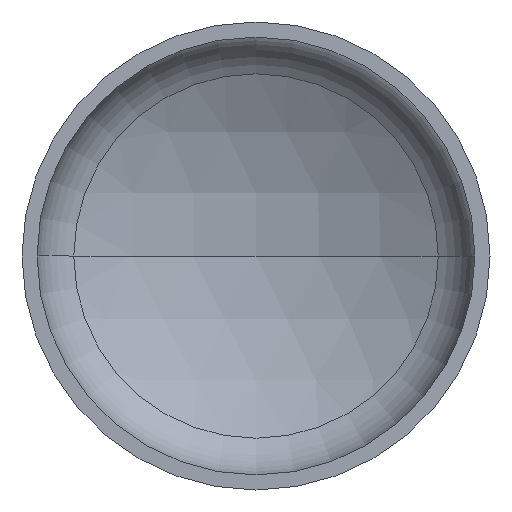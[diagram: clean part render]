
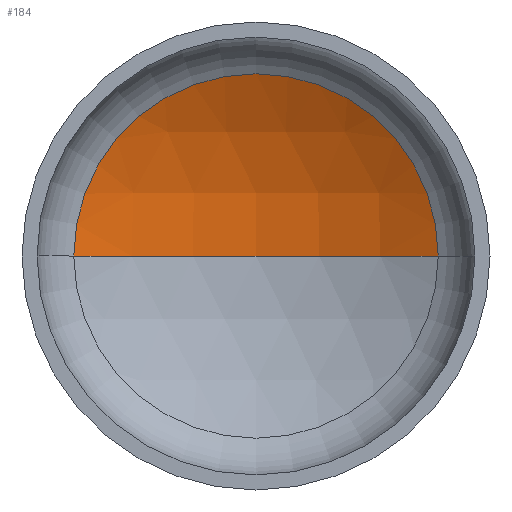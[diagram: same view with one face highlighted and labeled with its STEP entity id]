
A CAD part, front view. The second image highlights one B-rep face of the part: STEP entity #184.
In plain terms, the highlighted spherical face has radius 1440 mm.
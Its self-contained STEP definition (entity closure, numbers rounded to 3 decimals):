
#4 = CARTESIAN_POINT ( 'NONE',  ( 0., -897.711, 0. ) ) ;
#20 = CARTESIAN_POINT ( 'NONE',  ( -700.841, 360.232, 0. ) ) ;
#25 = DIRECTION ( 'NONE',  ( 0., 0., -1. ) ) ;
#28 = CARTESIAN_POINT ( 'NONE',  ( 0., -897.711, 0. ) ) ;
#32 = AXIS2_PLACEMENT_3D ( 'NONE', #28, #25, #157 ) ;
#36 = AXIS2_PLACEMENT_3D ( 'NONE', #400, #399, #398 ) ;
#37 = AXIS2_PLACEMENT_3D ( 'NONE', #4, #198, #269 ) ;
#38 = AXIS2_PLACEMENT_3D ( 'NONE', #251, #248, #243 ) ;
#50 = ORIENTED_EDGE ( 'NONE', *, *, #228, .T. ) ;
#101 = VERTEX_POINT ( 'NONE', #318 ) ;
#120 = CIRCLE ( 'NONE', #32, 1440. ) ;
#124 = CIRCLE ( 'NONE', #38, 700.841 ) ;
#151 = VERTEX_POINT ( 'NONE', #333 ) ;
#157 = DIRECTION ( 'NONE',  ( -1., 0., 0. ) ) ;
#184 = ADVANCED_FACE ( 'NONE', ( #410 ), #231, .F. ) ;
#198 = DIRECTION ( 'NONE',  ( 0., 0., -1. ) ) ;
#200 = EDGE_CURVE ( 'NONE', #151, #235, #124, .T. ) ;
#213 = ORIENTED_EDGE ( 'NONE', *, *, #234, .F. ) ;
#226 = ORIENTED_EDGE ( 'NONE', *, *, #200, .T. ) ;
#228 = EDGE_CURVE ( 'NONE', #101, #151, #120, .T. ) ;
#231 = SPHERICAL_SURFACE ( 'NONE', #37, 1440. ) ;
#234 = EDGE_CURVE ( 'NONE', #101, #235, #348, .T. ) ;
#235 = VERTEX_POINT ( 'NONE', #20 ) ;
#243 = DIRECTION ( 'NONE',  ( 1., 0., 0. ) ) ;
#248 = DIRECTION ( 'NONE',  ( 0., -1., 0. ) ) ;
#251 = CARTESIAN_POINT ( 'NONE',  ( 0., 360.232, 0. ) ) ;
#269 = DIRECTION ( 'NONE',  ( -1., 0., 0. ) ) ;
#273 = EDGE_LOOP ( 'NONE', ( #213, #50, #226 ) ) ;
#318 = CARTESIAN_POINT ( 'NONE',  ( 0., 542.289, 0. ) ) ;
#333 = CARTESIAN_POINT ( 'NONE',  ( 700.841, 360.232, 0. ) ) ;
#348 = CIRCLE ( 'NONE', #36, 1440. ) ;
#398 = DIRECTION ( 'NONE',  ( 1., 0., 0. ) ) ;
#399 = DIRECTION ( 'NONE',  ( 0., 0., 1. ) ) ;
#400 = CARTESIAN_POINT ( 'NONE',  ( 0., -897.711, 0. ) ) ;
#410 = FACE_OUTER_BOUND ( 'NONE', #273, .T. ) ;
